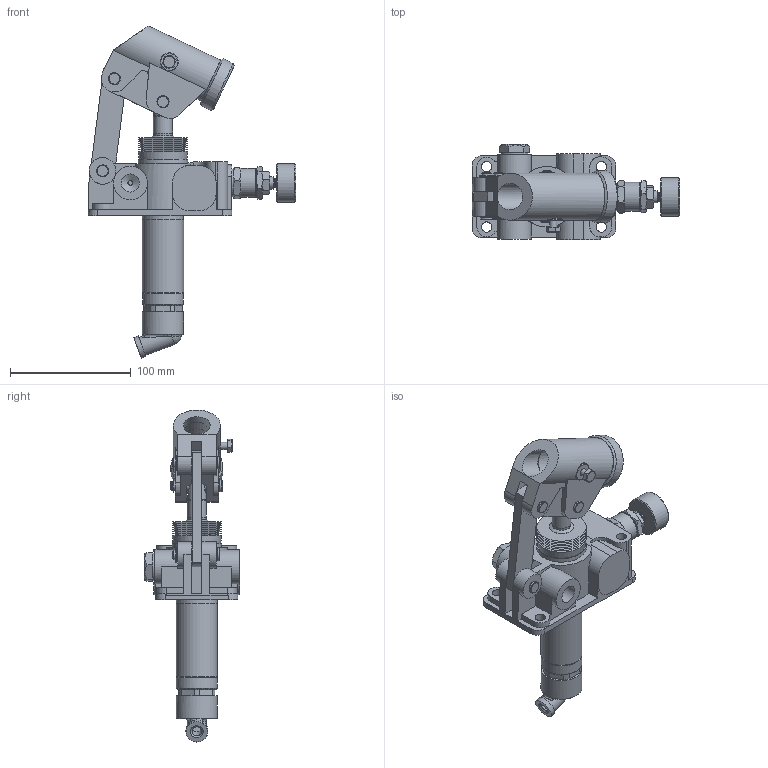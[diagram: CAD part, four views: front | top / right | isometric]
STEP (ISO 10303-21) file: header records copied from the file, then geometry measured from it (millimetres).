
FILE_DESCRIPTION(/* description */ ('Unknown'),/* implementation_level */ '2;1');
FILE_NAME(/* name */ 'HPT-RS',/* time_stamp */ '2024-11-28T11:31:47+01:00',/* author */ ('Unknown'),/* organization */ ('Unknown'),/* preprocessor_version */ 'ST-DEVELOPER v19.4',/* originating_system */ 'Solid Edge',/* authorisation */ 'Unknown');
FILE_SCHEMA (('AUTOMOTIVE_DESIGN {1 0 10303 214 3 1 1}'));
Length unit declared in the file: millimetre
Products named in the file (1): HPT-RS
Bounding box: 172.05 x 79 x 274.93 mm (x, y, z)
Volume: 507611.5 mm3; surface area: 139087.9 mm2
Topology: 8 solids, 8 shells, 2251 faces, 6164 edges, 3975 vertices
Faces by surface type: plane 1844, cylinder 261, cone 97, torus 30, bspline 15, sphere 4
Full cylindrical faces by diameter (mm): 1.8 x2, 2 x2, 3 x2, 4 x4, 5 x1, 5.1 x1, 5.15 x1, 5.994 x5, 7 x1, 7.792 x6, 7.8 x1, 7.95 x1, 8 x6, 8.092 x6, 8.1 x1, 8.376 x2, 8.5 x5, 9.99 x3, 10 x2, 11 x3, 12.2 x2, 13 x1, 14.5 x1, 14.9 x3, 14.95 x6, 15.3 x1, 15.8 x1, 16 x1, 17 x2, 18 x2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
Entity records: 85731 total; most frequent: CARTESIAN_POINT 14250, ORIENTED_EDGE 11658, DIRECTION 11104, EDGE_CURVE 5829, LINE 4754, VECTOR 4754, VERTEX_POINT 3860, AXIS2_PLACEMENT_3D 3175
